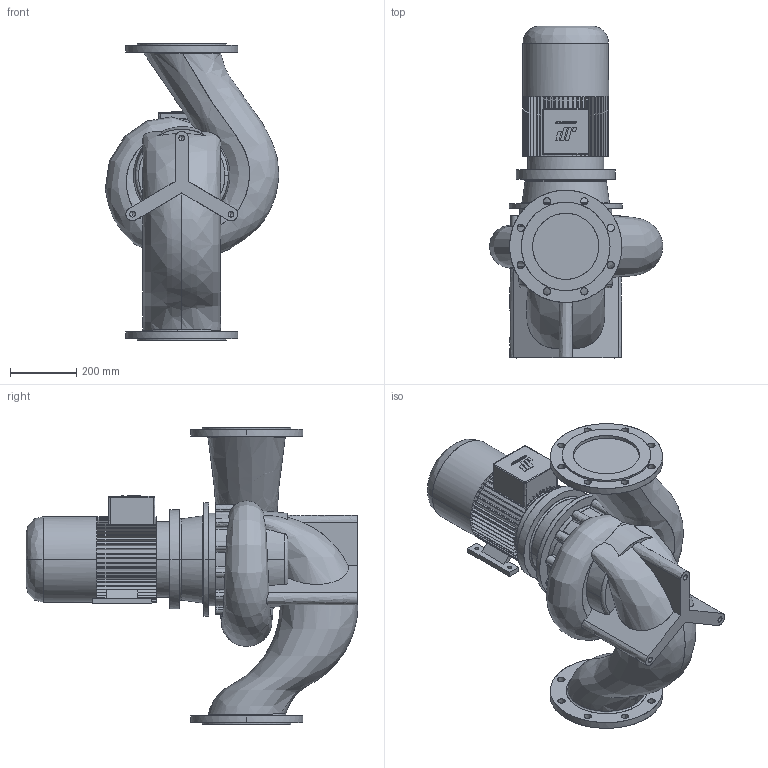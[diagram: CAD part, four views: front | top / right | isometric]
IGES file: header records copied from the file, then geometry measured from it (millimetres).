
Start section: CombiLine
Global section: file name: CLB_200-200_IEC132S_ND10.igs; native system:  By UGS Corp.; preprocessor: XPlus GENERIC/IGES 3.0; author: Stageplaats; organization: Johnson Pump Water B.V.; date: 20070718.091119; units: millimetre
Bounding box: 524.95 x 1004.5 x 900 mm (x, y, z)
Surface area: 2438556.2 mm2 (no closed solid volume)
Topology: 0 solids, 0 shells, 627 faces, 3802 edges, 3796 vertices
Faces by surface type: bspline 627
